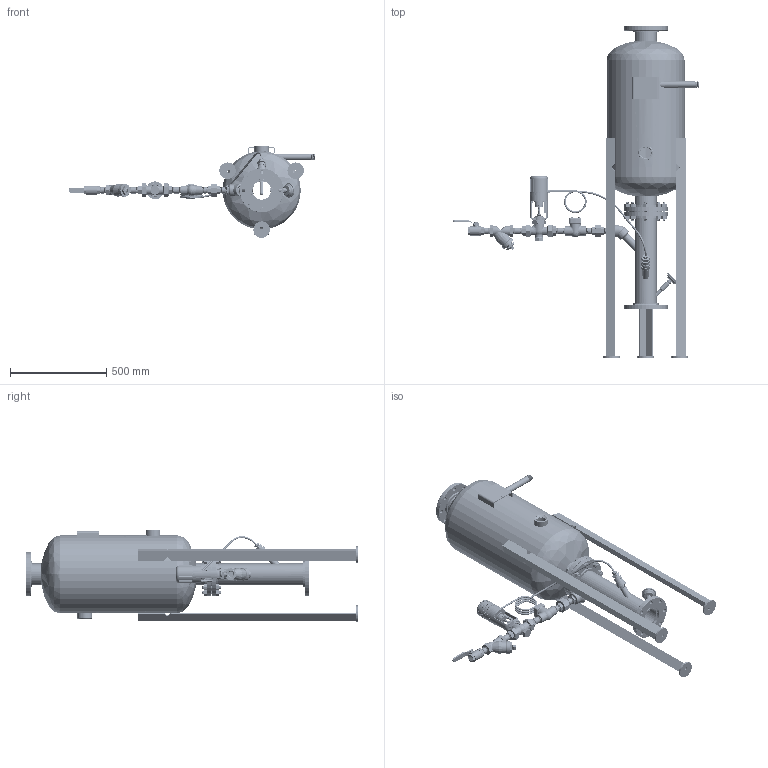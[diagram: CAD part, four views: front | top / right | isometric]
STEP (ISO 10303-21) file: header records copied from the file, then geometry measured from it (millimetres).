
FILE_DESCRIPTION(/* description */ (''),/* implementation_level */ '2;1');
FILE_NAME(/* name */ 'P:\TONY FISCHER\SBDS PRODUCT LINE\01_R&D ASSEMBLIES\1638-144RD\SBDS-1638-144-AC_01-26-19.stp',/* time_stamp */ '2019-01-26T09:16:17-06:00',/* author */ ('Afischer'),/* organization */ (''),/* preprocessor_version */ 'ST-DEVELOPER v17',/* originating_system */ 'Autodesk Inventor 2019',/* authorisation */ '');
FILE_SCHEMA (('AUTOMOTIVE_DESIGN { 1 0 10303 214 3 1 1 }'));
Products named in the file (35): SBDS-1638-144-AC; 634-250-100_A; 634-250-100_A_1; 908-006-014; 908-028-010; 006-040-001; 910-053-030; 006-040-001_1; 760-800-001; 004-003-009; 634-000-001; 635-150-125_B; 006-040-001_2; 908-039-005; 908-006-106; 908-006-212; 908-006-100; 904-004-140; 904-004-717; 904-004-717N; 636-150-100_H; 908-024-007; 908-035-016; 908-014-006; 905-026-313; 905-078-521; 908-006-004; 905-045-000; 908-027-004; 908-006-003; 905-055-012; 908-032-001; 908-033-011; 902-002-646; PROBE_1630-12544_A
Assembly tree (68 placements, depth 3):
  SBDS-1638-144-AC
    634-250-100_A
      634-250-100_A_1
      908-006-014
      908-028-010  x2
      910-053-030  x2
      006-040-001
      908-039-005  x2
      006-040-001_1
      760-800-001
      004-003-009  x3
      634-000-001  x3
    635-150-125_B
      006-040-001_2
      908-039-005  x2
      908-006-106
      908-006-212
      908-006-100
      904-004-140
      904-004-717  x8
      904-004-717N  x16
    636-150-100_H
      908-024-007
      908-035-016
      908-006-003  x3
      908-014-006
      905-026-313
      908-006-004  x2
      905-078-521
      905-045-000
      908-027-004
      905-055-012
      908-032-001
      908-033-011
      902-002-646
      PROBE_1630-12544_A
Bounding box: 1283.66 x 1727.2 x 477.7 mm (x, y, z)
Volume: 18091832.7 mm3; surface area: 4912083.1 mm2
Topology: 82 solids, 82 shells, 4000 faces, 10868 edges, 7105 vertices
Faces by surface type: cylinder 1602, cone 1092, plane 871, bspline 350, torus 67, sphere 18
Full cylindrical faces by diameter (mm): 6.35 x9, 6.426 x1, 6.731 x4, 7.544 x1, 9.246 x1, 9.525 x4, 11.691 x13, 12.468 x14, 12.519 x2, 12.875 x400, 13.097 x4, 13.868 x1, 15.875 x428, 16.51 x1, 17.526 x1, 18.135 x1, 19.05 x35, 20.574 x1, 21.336 x2, 23.026 x1, 24.308 x7, 24.987 x1, 24.994 x1, 25.4 x2, 26.67 x1, 27.432 x1, 28.575 x1, 28.974 x2, 29.008 x1, 29.464 x2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
Entity records: 343033 total; most frequent: CARTESIAN_POINT 280346, ORIENTED_EDGE 13414, DIRECTION 11467, EDGE_CURVE 6707, AXIS2_PLACEMENT_3D 4602, VERTEX_POINT 4380, EDGE_LOOP 2688, FACE_OUTER_BOUND 2502
